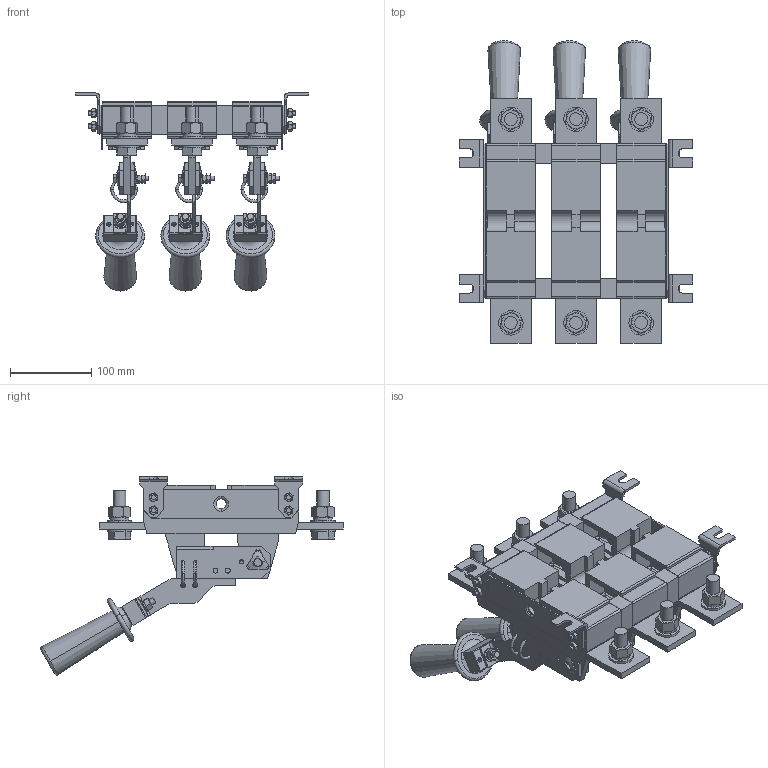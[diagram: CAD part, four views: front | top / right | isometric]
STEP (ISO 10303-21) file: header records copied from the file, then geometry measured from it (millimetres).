
FILE_DESCRIPTION (( 'STEP AP214' ), '1' );
FILE_NAME ('ÐÅ19-41(43)-31170.STEP', '2015-11-24T12:22:43', ( 'user' ), ( '' ), 'SwSTEP 2.0', 'SolidWorks 2010', '' );
FILE_SCHEMA (( 'AUTOMOTIVE_DESIGN' ));
Length unit declared in the file: millimetre
Products named in the file (1): 陓19-41(43)-31170
Bounding box: 287 x 371.69 x 243.28 mm (x, y, z)
Surface area: 632175.3 mm2 (no closed solid volume)
Topology: 0 solids, 229 shells, 1640 faces, 5486 edges, 4059 vertices
Faces by surface type: plane 979, cylinder 407, cone 162, torus 80, sphere 12
Entity records: 80870 total; most frequent: CARTESIAN_POINT 15522, DIRECTION 9874, ORIENTED_EDGE 8605, EDGE_CURVE 5460, VERTEX_POINT 4059, AXIS2_PLACEMENT_3D 3549, VECTOR 2776, LINE 2776
